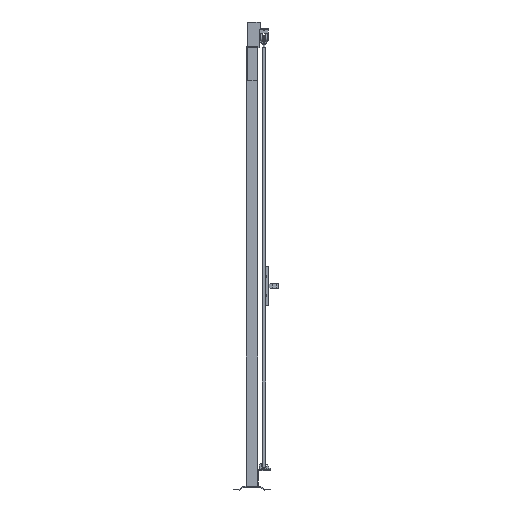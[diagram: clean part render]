
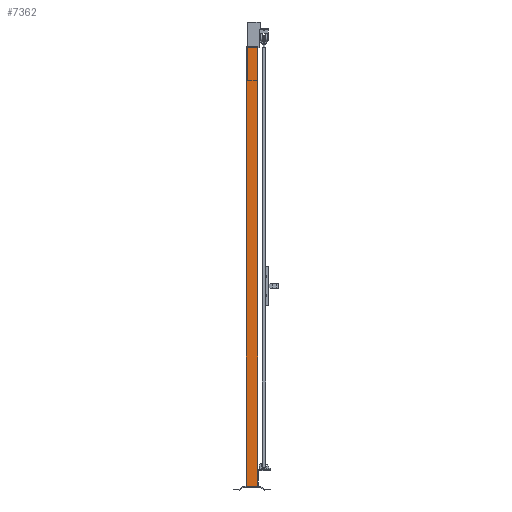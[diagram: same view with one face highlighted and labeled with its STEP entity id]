
A CAD part, left-side view. The second image highlights one B-rep face of the part: STEP entity #7362.
In plain terms, the highlighted planar face has unit normal (-1, 0, 0).
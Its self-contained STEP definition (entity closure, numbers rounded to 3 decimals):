
#592=FACE_OUTER_BOUND('',#1114,.T.);
#1114=EDGE_LOOP('',(#4353,#4354,#4355,#4356));
#1679=VERTEX_POINT('',#14749);
#1680=VERTEX_POINT('',#14751);
#1683=VERTEX_POINT('',#14758);
#1684=VERTEX_POINT('',#14760);
#2771=EDGE_CURVE('',#1679,#1680,#8341,.T.);
#2775=EDGE_CURVE('',#1683,#1684,#8345,.T.);
#2777=EDGE_CURVE('',#1680,#1683,#8347,.T.);
#2779=EDGE_CURVE('',#1679,#1684,#8349,.T.);
#4353=ORIENTED_EDGE('',*,*,#2779,.T.);
#4354=ORIENTED_EDGE('',*,*,#2775,.F.);
#4355=ORIENTED_EDGE('',*,*,#2777,.F.);
#4356=ORIENTED_EDGE('',*,*,#2771,.F.);
#6888=PLANE('',#10825);
#7362=ADVANCED_FACE('',(#592),#6888,.F.);
#8341=LINE('',#14752,#9641);
#8345=LINE('',#14761,#9645);
#8347=LINE('',#14764,#9647);
#8349=LINE('',#14767,#9649);
#9641=VECTOR('',#11794,1.);
#9645=VECTOR('',#11800,1.);
#9647=VECTOR('',#11804,1.);
#9649=VECTOR('',#11808,1.);
#10825=AXIS2_PLACEMENT_3D('',#14766,#11806,#11807);
#11794=DIRECTION('',(0.,-1.,0.));
#11800=DIRECTION('',(0.,1.,0.));
#11804=DIRECTION('',(0.,0.,-1.));
#11806=DIRECTION('center_axis',(1.,0.,0.));
#11807=DIRECTION('ref_axis',(0.,0.,-1.));
#11808=DIRECTION('',(0.,0.,-1.));
#14749=CARTESIAN_POINT('',(-30.,30.,2320.));
#14751=CARTESIAN_POINT('',(-30.,-30.,2320.));
#14752=CARTESIAN_POINT('',(-30.,0.,2320.));
#14758=CARTESIAN_POINT('',(-30.,-30.,20.));
#14760=CARTESIAN_POINT('',(-30.,30.,20.));
#14761=CARTESIAN_POINT('',(-30.,0.,20.));
#14764=CARTESIAN_POINT('',(-30.,-30.,1170.));
#14766=CARTESIAN_POINT('Origin',(-30.,0.,
1170.));
#14767=CARTESIAN_POINT('',(-30.,30.,1170.));
